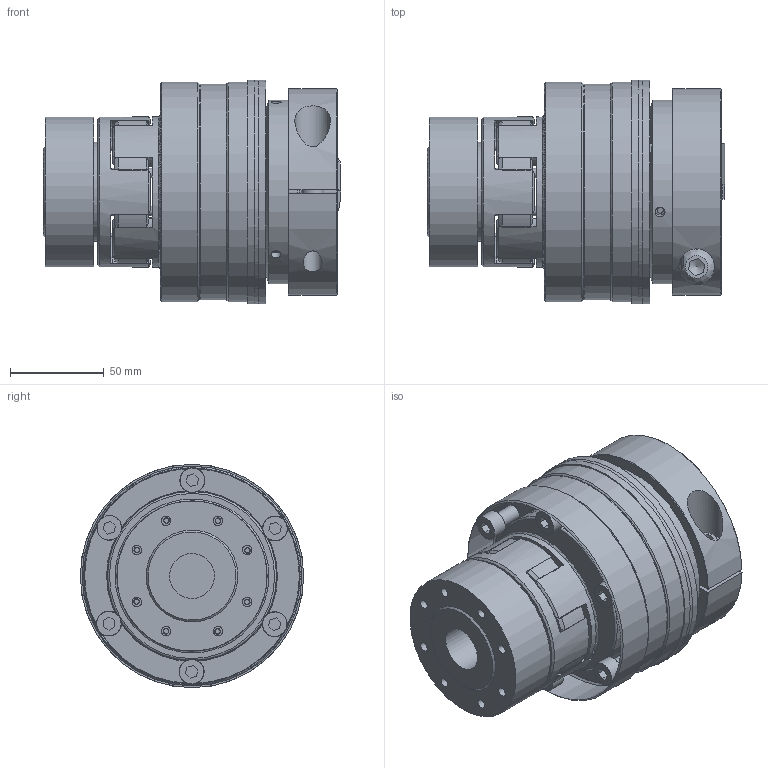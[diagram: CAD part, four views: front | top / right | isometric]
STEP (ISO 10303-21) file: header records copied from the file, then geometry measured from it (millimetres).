
FILE_DESCRIPTION( ( 'Unknown' ), '1' );
FILE_NAME( 'C:/Dokumente und Einstellungen/Sven/Desktop/hp kbk/E-AK/KBK EAK-38-153.stp', 'Unknown', ( 'Unknown' ), ( 'Unknown' ), 'XStep 1.0', 'Unknown', ' ' );
FILE_SCHEMA( ( 'automotive_design' ) );
Length unit declared in the file: millimetre
Products named in the file (20): Assem1; Assem2; Assem3; Assem4; Zylinderschraube DIN 912; ball_bearing_-_6011_0_01; ball_bearing_-_6011_0_02; ball_bearing_-_6011_0_03; Zylinderschraube DIN 912_6; Stellring 300; Druckring 300; Flansch 300; a_55; Elastomerflansch 38; Zahnkranz_38_Standard; KBE3-38_Druckring; Kupplung L-K-300 Grundkörper; Klemmnabe 300; schraube_iso_7380-m12x30-12_9; KBE3 C - 38 Nabe
Bounding box: 158.55 x 119 x 119 mm (x, y, z)
Volume: 2088468.6 mm3; surface area: 563343.7 mm2
Topology: 49 solids, 49 shells, 1033 faces, 2330 edges, 1499 vertices
Faces by surface type: plane 370, cylinder 370, cone 242, torus 49, bspline 2
Full cylindrical faces by diameter (mm): 2.5 x4, 3 x10, 3.242 x6, 4.917 x8, 5 x32, 5.2 x6, 5.5 x10, 6.5 x16, 6.647 x12, 8 x8, 8.2 x12, 10.106 x2, 11 x16, 12 x2, 12.5 x2, 13 x8, 13.2 x12, 19 x2, 20 x2, 24 x2, 38 x4, 40 x2, 46 x2, 48 x2, 52 x2, 53 x2, 55 x7, 60 x2, 66.3 x6, 70 x2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
Entity records: 12690 total; most frequent: CARTESIAN_POINT 2817, DIRECTION 2004, ORIENTED_EDGE 1512, AXIS2_PLACEMENT_3D 934, EDGE_CURVE 756, EDGE_LOOP 690, VERTEX_POINT 561, FACE_OUTER_BOUND 533
